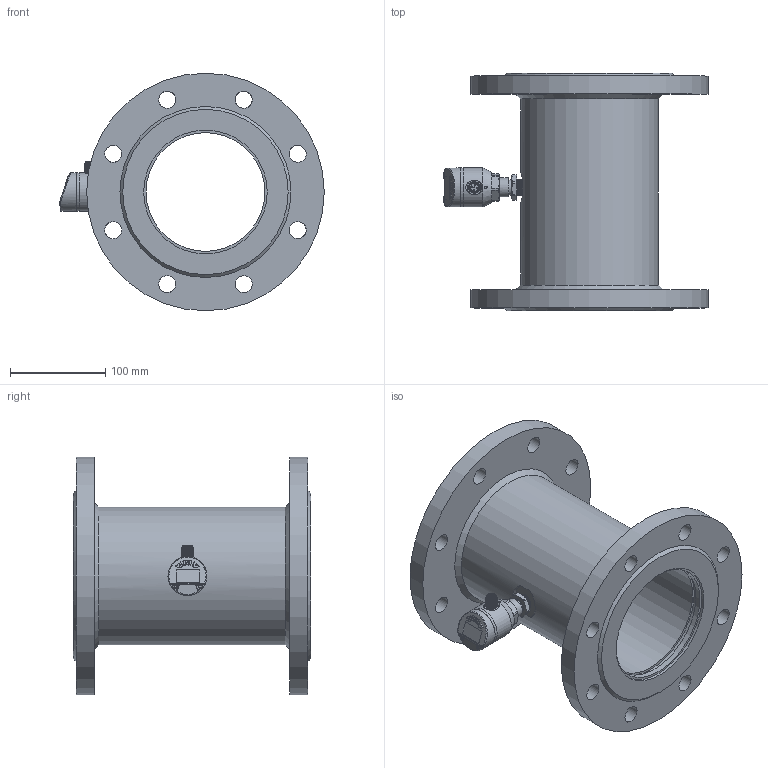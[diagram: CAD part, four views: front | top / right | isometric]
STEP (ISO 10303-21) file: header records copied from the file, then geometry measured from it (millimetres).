
FILE_DESCRIPTION( (''), '2;1');
FILE_NAME( 'QTKA_DN125_flange.step', '2024-01-11T13:52:31+08:00', (''), (''), '', '', '');
FILE_SCHEMA (('AUTOMOTIVE_DESIGN { 1 0 10303 214 3 1 1 1 }'));
Length unit declared in the file: millimetre
Products named in the file (1): QTKA DN125_flange
Bounding box: 278.3 x 250 x 250 mm (x, y, z)
Volume: 2297819.8 mm3; surface area: 398084.1 mm2
Topology: 5 solids, 7 shells, 450 faces, 1098 edges, 705 vertices
Faces by surface type: cylinder 158, plane 155, cone 50, bspline 42, torus 39, sphere 6
Full cylindrical faces by diameter (mm): 1 x5, 2.7 x4, 8.4 x1, 9.7 x1, 9.8 x1, 10.1 x1, 11.6 x1, 12 x1, 15.9 x1, 16.5 x1, 18 x16, 20 x1, 23 x3, 26 x4, 26.1 x1, 37 x1, 41 x3, 125 x3, 130 x4, 145 x1, 250 x2
Entity records: 28985 total; most frequent: CARTESIAN_POINT 17637, DIRECTION 2012, ORIENTED_EDGE 1922, EDGE_CURVE 961, AXIS2_PLACEMENT_3D 819, VERTEX_POINT 648, EDGE_LOOP 611, ADVANCED_FACE 448
